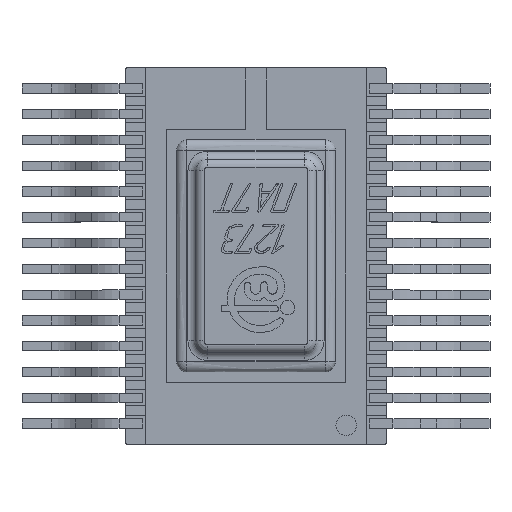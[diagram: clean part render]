
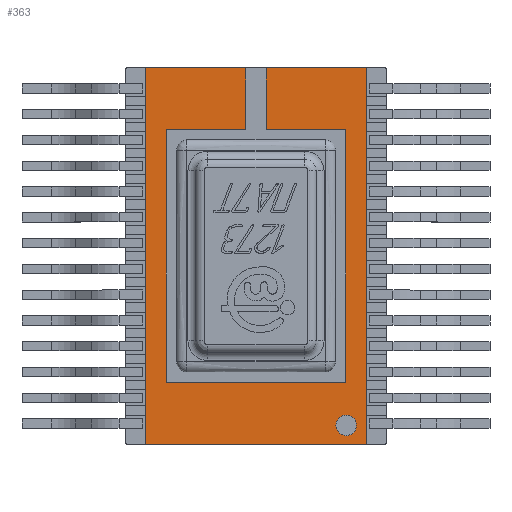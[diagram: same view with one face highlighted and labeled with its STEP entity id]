
A CAD part, top view. The second image highlights one B-rep face of the part: STEP entity #363.
In plain terms, the highlighted planar face has unit normal (0, 0, 1).
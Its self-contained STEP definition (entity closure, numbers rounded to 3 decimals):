
#363=ADVANCED_FACE('',(#9291),#9293,.T.);
#9291=FACE_BOUND('',#9292,.T.);
#9292=EDGE_LOOP('',(#16796,#16797,#16798,#16799));
#9293=PLANE('',#9294);
#9294=AXIS2_PLACEMENT_3D('',#9295,#9296,#9297);
#9295=CARTESIAN_POINT('',(0.,0.,2.));
#9296=DIRECTION('',(0.,0.,1.));
#9297=DIRECTION('',(1.,0.,0.));
#16796=ORIENTED_EDGE('',*,*,#22292,.T.);
#16797=ORIENTED_EDGE('',*,*,#22293,.T.);
#16798=ORIENTED_EDGE('',*,*,#22294,.T.);
#16799=ORIENTED_EDGE('',*,*,#22295,.T.);
#22292=EDGE_CURVE('',#24962,#24963,#24964,.F.);
#22293=EDGE_CURVE('',#24963,#24965,#24966,.T.);
#22294=EDGE_CURVE('',#24965,#24967,#24968,.F.);
#22295=EDGE_CURVE('',#24967,#24962,#24969,.T.);
#24962=VERTEX_POINT('',#29388);
#24963=VERTEX_POINT('',#29389);
#24964=LINE('',#29390,#29391);
#24965=VERTEX_POINT('',#29393);
#24966=LINE('',#29394,#29395);
#24967=VERTEX_POINT('',#29397);
#24968=LINE('',#29398,#29399);
#24969=LINE('',#29401,#29402);
#29388=CARTESIAN_POINT('',(-5.35,9.125,2.));
#29389=CARTESIAN_POINT('',(-5.35,-9.125,2.));
#29390=CARTESIAN_POINT('',(-5.35,-9.125,2.));
#29391=VECTOR('',#29392,1.);
#29392=DIRECTION('',(0.,1.,0.));
#29393=CARTESIAN_POINT('',(5.35,-9.125,2.));
#29394=CARTESIAN_POINT('',(-5.35,-9.125,2.));
#29395=VECTOR('',#29396,1.);
#29396=DIRECTION('',(1.,0.,0.));
#29397=CARTESIAN_POINT('',(5.35,9.125,2.));
#29398=CARTESIAN_POINT('',(5.35,9.125,2.));
#29399=VECTOR('',#29400,1.);
#29400=DIRECTION('',(0.,-1.,0.));
#29401=CARTESIAN_POINT('',(5.35,9.125,2.));
#29402=VECTOR('',#29403,1.);
#29403=DIRECTION('',(-1.,0.,0.));
